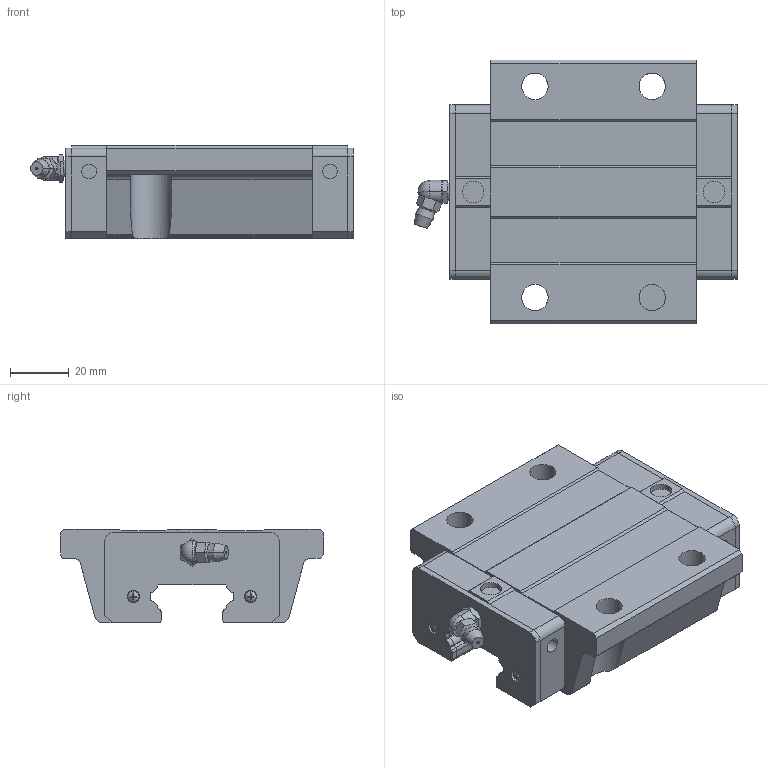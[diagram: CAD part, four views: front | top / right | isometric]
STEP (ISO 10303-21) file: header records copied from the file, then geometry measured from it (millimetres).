
FILE_DESCRIPTION(('starvars output'),'2;1');
FILE_NAME('cv20190626223904000075184.stp','22:39:04 2019/06/26',( 'Thomas Industrial Network Germany GmbH'),( 'Thomas Industrial Network Germany GmbH'),'unknown preprocess','ACIS' ,'unknown authorization');
FILE_SCHEMA(('CONFIG_CONTROL_DESIGN {UNKNOWN IMPLEMENTATION LEVEL}'));
Length unit declared in the file: millimetre
Products named in the file (10): PRODUCT_ID_1; PRODUCT_ID_2; PRODUCT_ID_3; PRODUCT_ID_4; PRODUCT_ID_5; PRODUCT_ID_6; PRODUCT_ID_7; PRODUCT_ID_8; PRODUCT_ID_9; PRODUCT_ID_10
Bounding box: 110.1 x 90 x 32 mm (x, y, z)
Volume: 184728.4 mm3; surface area: 43515.6 mm2
Topology: 10 solids, 10 shells, 411 faces, 1100 edges, 716 vertices
Faces by surface type: plane 225, cylinder 134, cone 40, sphere 12
Entity records: 12593 total; most frequent: ORIENTED_EDGE 2192, CARTESIAN_POINT 2077, DIRECTION 1851, EDGE_CURVE 1096, VERTEX_POINT 716, AXIS2_PLACEMENT_3D 624, VECTOR 603, LINE 603
